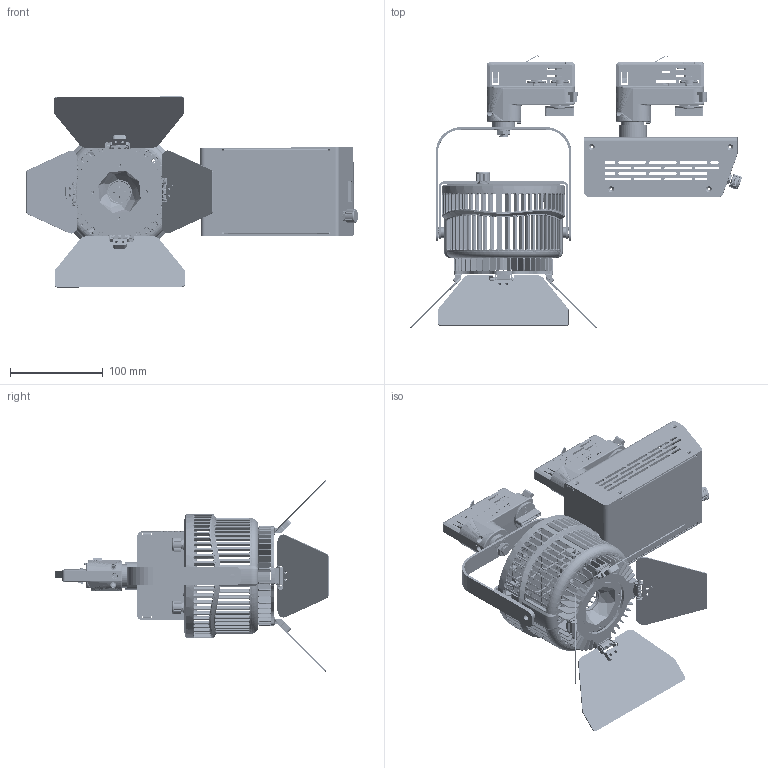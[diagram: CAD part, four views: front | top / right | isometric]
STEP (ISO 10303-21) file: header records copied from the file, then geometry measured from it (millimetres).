
FILE_DESCRIPTION (( 'STEP AP214' ), '1' );
FILE_NAME ('W500BD-TOX-PSX.STEP', '2024-02-01T19:56:55', ( '' ), ( '' ), 'SwSTEP 2.0', 'SolidWorks 2022', '' );
FILE_SCHEMA (( 'AUTOMOTIVE_DESIGN' ));
Length unit declared in the file: millimetre
Products named in the file (43): 62432-11100100140040_ _Hex Nuts Customized, M10 P1.0 S14 T4 W-Zinc___; 5120539-XXX_A1_Housing, OD=133, ID=121, T=78.1mm, For Reflector, Without Logo___; 5047592-XXX_A2_A.A.G. STUCCHI-Adapter for ONE Track Series(6 Conductors), for US___; 5022667-XXX_A1_Holder, Barn Door Frame For W-Series, OD=107, T=3mm___; 5020921-XXX_A5_Spacer, Pitch 7.4, Light Shielding, Barn Door___; 5022445-XXX_A1_DC Plug for W Series, D=12mm_-002(Black); 5022452-001_A3_Reflector Sink Holder, D108x14.35(H)mm (-002 is White)_-001(Black); 5022340-XXX_A1_Major Leaf of 3 inch Barndoor, L140, W77, T1.1___; 5020919-XXX_A5_Spacer, Pitch 6.0, Light Shielding, Barn Door___; 5022358-1051452003_ _Wave Spring Washer, ID10.5 OD14.5 H2.0 T0.3, Black___; 5022447-XXX_A2_W Series, 15F YOKE PART-B, 146.2x122.5x20mm___; 5022185_A3_Frame, T=1.5mm AL5052 Black, 24x20x65.15mm___; 5021926-XXX_A2_KNOB, 18T, OD=14.9, ID=6, L=10MM_C1; 5022427-XXX_A4_250W Power Box FRAME (TG&TEX&CLP TYPE), 165x95x64mm___; 5020757-002_A2_VR Washer, Kessil A360 Aquarium Light___; 5021948_A1_Narrow Reflector, OD=54, T=15.6MM___; 5120561_A1_Frame, T=1.5mm AL5052 Black, 17.5x20x65.15mm___; 5022771-XXX_A1_RETAINING M10P1.5 FOR ONETRACK LIGHT SIDE OD25x19.8mm___; 5120540-XXX_A1_Rear Panel, OD=133, T=13.65mm, W-Series_5120531-001 W500; 5020757-001_A1_VR Nut, Kessil A360 Aquarium Light___; 62280-1343006_ _SCREW, PAN HEAD TROX W-THD LOCK, SUS-410, BLACK, M3xL6mm___; 5020893-3211020005_ _Flat Washer Customized, Nylon Black, ID11mm OD20mm T0.5mm___; 5022446-XXX_A2_W Series, 15F YOKE PART-A, 140x62x18mm___; 5047592-XXX_A2_A.A.G. STUCCHI-Adapter for ONE Track Series(4 Conductors), for US___; 5010177-XXX_A2_Assembly BOM, Kessil W500_55D-BD-[TEX]; 5020655-011_A4_Hinge, Assembly, Barndoor Video Light, Pitch6.0, Black_01; 5022398-XXX_A1_Plug for W Series, 19x10x9.4mm_-002(Black); 5120529-XXX_A1_Assembly BOM, W500 Light Engine_Finish; 5022341-XXX_A1_Minor Leaf of 3 inch Barndoor, L96, W77, T1.1___; 5021287_A2_Toothed Lock Washer M6, OD11 ID6.4 T0.55, SUS___; 5120519-XXX_A3_Assembly BOM, Kessil W500 Power Box_TON(US)-PS; 5022189_A1_Plate, OD=48, ID=23, T=2.0mm___; 62280-1313006_ _SCREW, M3x6mmL, PAN HEAD TORX WITH THREAD LOCK___; 5120530-XXX_A1_Assembly BOM, W500 Reflector Type_Reflector - 55D-BD; 5020655-012_A4_Hinge, Assembly, Barndoor Video Light, Pitch7.4, Black_01; 5022348-104_ _Toothed Washer Series, M3___; W500BD-TOX-PSX; 5021924_A2_BOLT SCREW, M3.0, L=19.2MM___; 5022432-XXX_A2_250W Power Box Cover (TEX-PSX TYPE), 165x92x62.5(H)mm___; 5020734-XXX_A3_Spacer, Hinge, Barn Door_-001_Black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
Assembly tree (64 placements, depth 4):
  W500BD-TOX-PSX
    5120519-XXX_A3_Assembly BOM, Kessil W500 Power Box_TON(US)-PS
      5022427-XXX_A4_250W Power Box FRAME (TG&TEX&CLP TYPE), 165x95x64mm___
      5022770-XXX_A1_RETAINING COLLAR M10P1.0 FOR ONETRACK POWER BOX OD30x29.8mm___
      5047592-XXX_A2_A.A.G. STUCCHI-Adapter for ONE Track Series(6 Conductors), for US___
      5022432-XXX_A2_250W Power Box Cover (TEX-PSX TYPE), 165x92x62.5(H)mm___
      5020757-002_A2_VR Washer, Kessil A360 Aquarium Light___
      5020757-001_A1_VR Nut, Kessil A360 Aquarium Light___
      5021926-XXX_A2_KNOB, 18T, OD=14.9, ID=6, L=10MM_C1
    5010177-XXX_A2_Assembly BOM, Kessil W500_55D-BD-[TEX]
      5120529-XXX_A1_Assembly BOM, W500 Light Engine_Finish
        5120540-XXX_A1_Rear Panel, OD=133, T=13.65mm, W-Series_5120531-001 W500
        5022398-XXX_A1_Plug for W Series, 19x10x9.4mm_-002(Black)
        5022445-XXX_A1_DC Plug for W Series, D=12mm_-002(Black)
        5022185_A3_Frame, T=1.5mm AL5052 Black, 24x20x65.15mm___
        5120561_A1_Frame, T=1.5mm AL5052 Black, 17.5x20x65.15mm___
        5022348-104_ _Toothed Washer Series, M3___  x2
        62280-1313006_ _SCREW, M3x6mmL, PAN HEAD TORX WITH THREAD LOCK___  x4
        5021924_A2_BOLT SCREW, M3.0, L=19.2MM___  x2
        5020757-002_A2_VR Washer, Kessil A360 Aquarium Light___  x2
        5020757-001_A1_VR Nut, Kessil A360 Aquarium Light___  x2
        5021926-XXX_A2_KNOB, 18T, OD=14.9, ID=6, L=10MM_C1  x2
        62280-1363006_ _SCREW, M3x6mmL, PAN HEAD TORX WITH THREAD LOCK___  x2
      5120530-XXX_A1_Assembly BOM, W500 Reflector Type_Reflector - 55D-BD
        5120539-XXX_A1_Housing, OD=133, ID=121, T=78.1mm, For Reflector, Without Logo___
        5022189_A1_Plate, OD=48, ID=23, T=2.0mm___
        62280-1343006_ _SCREW, PAN HEAD TROX W-THD LOCK, SUS-410, BLACK, M3xL6mm___  x2
        5022452-001_A3_Reflector Sink Holder, D108x14.35(H)mm (-002 is White)_-001(Black)
        5021948_A1_Narrow Reflector, OD=54, T=15.6MM___
        5020655-011_A4_Hinge, Assembly, Barndoor Video Light, Pitch6.0, Black_01  x2
        5020919-XXX_A5_Spacer, Pitch 6.0, Light Shielding, Barn Door___  x2
        5022341-XXX_A1_Minor Leaf of 3 inch Barndoor, L96, W77, T1.1___  x2
        5020655-012_A4_Hinge, Assembly, Barndoor Video Light, Pitch7.4, Black_01  x2
        5020921-XXX_A5_Spacer, Pitch 7.4, Light Shielding, Barn Door___  x2
        5020734-XXX_A3_Spacer, Hinge, Barn Door_-001_Black  x2
        5022340-XXX_A1_Major Leaf of 3 inch Barndoor, L140, W77, T1.1___  x2
        5022667-XXX_A1_Holder, Barn Door Frame For W-Series, OD=107, T=3mm___
      5120531-XXX_A4_Assembly BOM, Light Mounting Type for Yoke_TEX
        5022447-XXX_A2_W Series, 15F YOKE PART-B, 146.2x122.5x20mm___
        5022446-XXX_A2_W Series, 15F YOKE PART-A, 140x62x18mm___
        5021287_A2_Toothed Lock Washer M6, OD11 ID6.4 T0.55, SUS___  x2
        5022358-1051452003_ _Wave Spring Washer, ID10.5 OD14.5 H2.0 T0.3, Black___
        5020893-3211020005_ _Flat Washer Customized, Nylon Black, ID11mm OD20mm T0.5mm___  x2
        62432-11100100140040_ _Hex Nuts Customized, M10 P1.0 S14 T4 W-Zinc___
        5022771-XXX_A1_RETAINING M10P1.5 FOR ONETRACK LIGHT SIDE OD25x19.8mm___
        5047592-XXX_A2_A.A.G. STUCCHI-Adapter for ONE Track Series(4 Conductors), for US___
Bounding box: 357.79 x 294.3 x 205.95 mm (x, y, z)
Volume: 353661.1 mm3; surface area: 530367.2 mm2
Topology: 82 solids, 91 shells, 16924 faces, 46618 edges, 29849 vertices
Faces by surface type: plane 8308, cylinder 4825, bspline 2634, cone 728, torus 425, sphere 4
Entity records: 780586 total; most frequent: CARTESIAN_POINT 347478, ORIENTED_EDGE 83295, DIRECTION 62286, EDGE_CURVE 41949, VERTEX_POINT 26884, LINE 21902, VECTOR 21902, AXIS2_PLACEMENT_3D 20192
